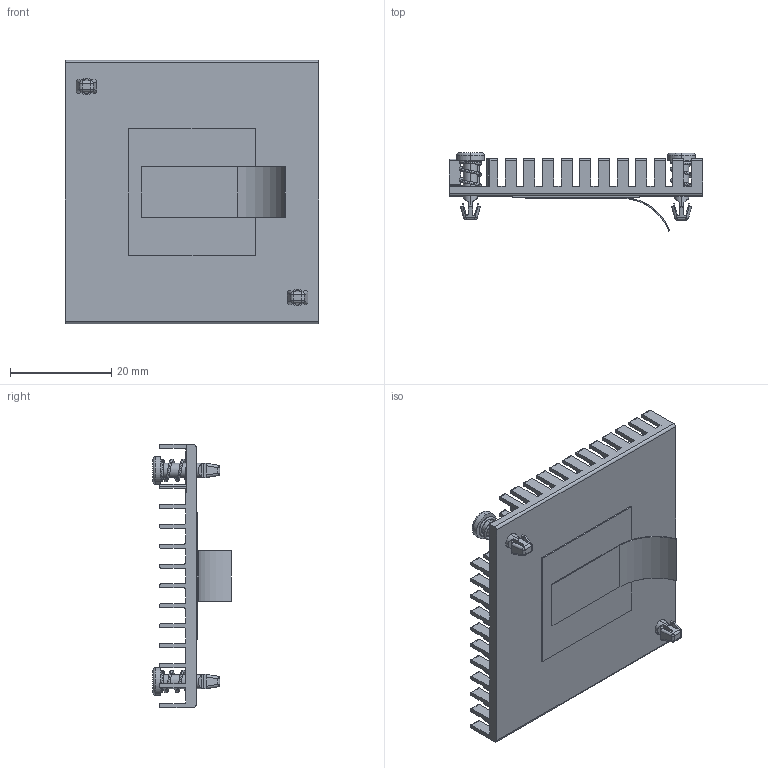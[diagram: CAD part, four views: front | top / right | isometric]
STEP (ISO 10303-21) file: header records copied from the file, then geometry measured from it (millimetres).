
FILE_DESCRIPTION (( 'STEP AP214' ), '1' );
FILE_NAME ('PCI1094_B.STEP', '2023-04-17T22:14:54', ( '' ), ( '' ), 'SwSTEP 2.0', 'SolidWorks 2020', '' );
FILE_SCHEMA (( 'AUTOMOTIVE_DESIGN' ));
Length unit declared in the file: millimetre
Products named in the file (1): PCI1094_B
Bounding box: 50 x 15.42 x 52 mm (x, y, z)
Volume: 7186.1 mm3; surface area: 13382.3 mm2
Topology: 4 solids, 4 shells, 1905 faces, 5628 edges, 3728 vertices
Faces by surface type: plane 1129, cylinder 752, bspline 12, sphere 8, torus 4
Entity records: 87520 total; most frequent: CARTESIAN_POINT 14362, ORIENTED_EDGE 11240, DIRECTION 10866, EDGE_CURVE 5620, VECTOR 4066, LINE 4066, VERTEX_POINT 3728, AXIS2_PLACEMENT_3D 3400
